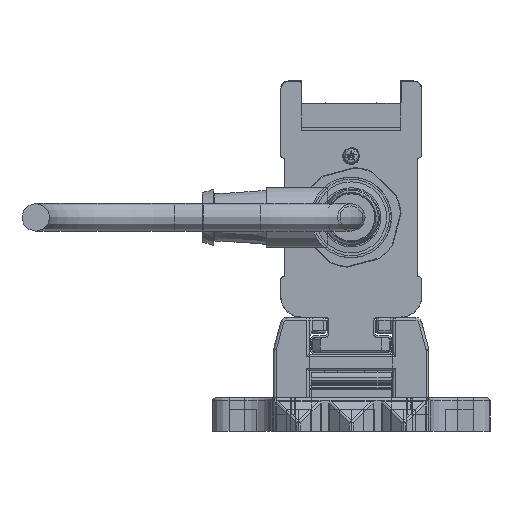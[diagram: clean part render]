
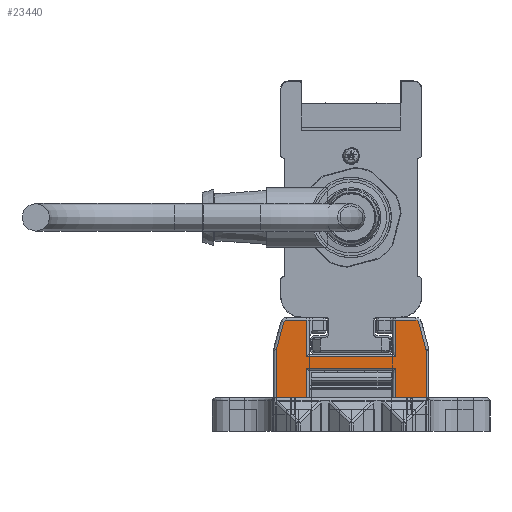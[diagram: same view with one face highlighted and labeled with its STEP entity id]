
A CAD part, left-side view. The second image highlights one B-rep face of the part: STEP entity #23440.
In plain terms, the highlighted planar face has unit normal (-1, 0, 0).
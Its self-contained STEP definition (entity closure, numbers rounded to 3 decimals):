
#23440=ADVANCED_FACE('', (#23450), #23460, .T.);
#165170=AXIS2_PLACEMENT_3D('Ax2Pl3d', #165180, #165190, #165200);
#165410=AXIS2_PLACEMENT_3D('Ax2Pl3d', #165420, #165430, #165440);
#170290=AXIS2_PLACEMENT_3D('Ax2Pl3d', #170300, #170310, #170320);
#175370=AXIS2_PLACEMENT_3D('Ax2Pl3d', #175380, #175390, #175400);
#185050=AXIS2_PLACEMENT_3D('Ax2Pl3d', #185060, #185070, #185080);
#714080=CARTESIAN_POINT('', (-747.669,-4486.345,
331.37));
#165180=CARTESIAN_POINT('HicPkt', (-747.669,-4485.379,
331.111));
#714090=CARTESIAN_POINT('', (-747.669,-4486.379,331.111)
);
#714100=CARTESIAN_POINT('', (-747.669,-4485.037,
336.255));
#714120=CARTESIAN_POINT('', (-747.669,-4485.037,
336.255));
#714150=CARTESIAN_POINT('', (-747.669,-4484.554,
336.625));
#165420=CARTESIAN_POINT('HicPkt', (-747.669,-4484.554,
336.125));
#714370=CARTESIAN_POINT('', (-747.669,-4486.379,322.625)
);
#714380=CARTESIAN_POINT('', (-747.669,-4480.881,322.625)
);
#714390=CARTESIAN_POINT('', (-747.669,-4480.881,322.625)
);
#714470=CARTESIAN_POINT('', (-747.669,-4464.881,322.625)
);
#714480=CARTESIAN_POINT('', (-747.669,-4459.383,322.625)
);
#714490=CARTESIAN_POINT('', (-747.669,-4459.383,322.625)
);
#170300=CARTESIAN_POINT('HicPkt', (-747.669,-4461.209,
336.125));
#716960=CARTESIAN_POINT('', (-747.669,-4460.726,
336.255));
#716970=CARTESIAN_POINT('', (-747.669,-4461.209,
336.625));
#716980=CARTESIAN_POINT('', (-747.669,-4480.881,
330.025));
#716990=CARTESIAN_POINT('', (-747.669,-4464.881,
330.025));
#717000=CARTESIAN_POINT('', (-747.669,-4480.881,
330.025));
#717160=CARTESIAN_POINT('', (-747.669,-4480.881,
328.005));
#717170=CARTESIAN_POINT('', (-747.669,-4464.881,
328.005));
#717180=CARTESIAN_POINT('', (-747.669,-4464.881,
328.005));
#717190=CARTESIAN_POINT('', (-747.669,-4480.881,
328.005));
#717210=CARTESIAN_POINT('', (-747.669,-4464.881,322.625)
);
#717220=CARTESIAN_POINT('', (-747.669,-4464.881,
330.025));
#717230=CARTESIAN_POINT('', (-747.669,-4464.881,
336.625));
#718080=CARTESIAN_POINT('', (-747.669,-4464.881,
336.625));
#718090=CARTESIAN_POINT('', (-747.669,-4460.726,
336.255));
#718100=CARTESIAN_POINT('', (-747.669,-4459.417,
331.37));
#718290=CARTESIAN_POINT('', (-747.669,-4459.383,331.111)
);
#718300=CARTESIAN_POINT('', (-747.669,-4459.383,331.111)
);
#175380=CARTESIAN_POINT('HicPkt', (-747.669,-4460.383,
331.111));
#719110=CARTESIAN_POINT('', (-747.669,-4486.379,331.111)
);
#185060=CARTESIAN_POINT('HicPkt', (-747.669,-4484.554,
336.625));
#720910=CARTESIAN_POINT('', (-747.669,-4480.881,
336.625));
#720920=CARTESIAN_POINT('', (-747.669,-4480.881,
336.625));
#720930=CARTESIAN_POINT('', (-747.669,-4480.881,
336.625));
#828200=CIRCLE('Circle', #165170, 1.);
#828240=CIRCLE('Circle', #165410, 0.5);
#828820=CIRCLE('Circle', #170290, 0.5);
#829350=CIRCLE('Circle', #175370, 1.);
#165190=DIRECTION('Axis', (-1.,0.,
0.));
#165200=DIRECTION('RefDirection', (0.,
0.,-1.));
#1155220=DIRECTION('', (0.,0.259,
0.966));
#165430=DIRECTION('Axis', (-1.,0.,
0.));
#165440=DIRECTION('RefDirection', (0.,
0.,-1.));
#1155330=DIRECTION('', (0.,1.,0.));
#1155370=DIRECTION('', (0.,1.,0.));
#170310=DIRECTION('Axis', (1.,0.,
0.));
#170320=DIRECTION('RefDirection', (0.,
0.,-1.));
#1156560=DIRECTION('', (0.,-1.,0.));
#1156660=DIRECTION('', (0.,1.,0.));
#1156670=DIRECTION('', (0.,0.,1.));
#1156690=DIRECTION('', (0.,0.,-1.));
#1156700=DIRECTION('', (0.,0.,-1.));
#1157130=DIRECTION('', (0.,-1.,0.))
;
#1157140=DIRECTION('', (0.,-0.259,0.966));
#1157230=DIRECTION('', (0.,0.,1.));
#175390=DIRECTION('Axis', (1.,0.,
0.));
#175400=DIRECTION('RefDirection', (0.,
0.,-1.));
#1157600=DIRECTION('', (0.,0.,1.));
#185070=DIRECTION('Axis', (-1.,0.,
0.));
#185080=DIRECTION('RefDirection', (0.,
0.,-1.));
#1158440=DIRECTION('', (0.,1.,0.));
#1158450=DIRECTION('', (0.,0.,1.));
#1233130=EDGE_CURVE('', #1233140, #1233120, #828200, .T.);
#1233190=EDGE_CURVE('', #1233120, #1233170, #1233200, .T.);
#1233260=EDGE_CURVE('', #1233170, #1233250, #828240, .T.);
#1233710=EDGE_CURVE('', #1233700, #1233720, #1233730, .T.);
#1233870=EDGE_CURVE('', #1233860, #1233880, #1233890, .T.);
#1238230=EDGE_CURVE('', #1238240, #1238250, #828820, .T.);
#1238280=EDGE_CURVE('', #1238290, #1238300, #1238310, .T.);
#1238650=EDGE_CURVE('', #1238630, #1238660, #1238670, .T.);
#1238700=EDGE_CURVE('', #1233720, #1238630, #1238710, .T.);
#1238740=EDGE_CURVE('', #1238660, #1233860, #1238750, .T.);
#1238760=EDGE_CURVE('', #1238770, #1238290, #1238780, .T.);
#1240600=EDGE_CURVE('', #1238250, #1238770, #1240610, .T.);
#1240670=EDGE_CURVE('', #1240680, #1238240, #1240690, .T.);
#1241110=EDGE_CURVE('', #1233880, #1241120, #1241130, .T.);
#1241150=EDGE_CURVE('', #1241120, #1240680, #829350, .T.);
#1242860=EDGE_CURVE('', #1233700, #1233140, #1242870, .T.);
#1246670=EDGE_CURVE('', #1233250, #1246680, #1246690, .T.);
#1246700=EDGE_CURVE('', #1238300, #1246680, #1246710, .T.);
#1483650=EDGE_LOOP('Edge_loop', (#1483660,#1483670,#1483680,#1483690,
#1483700,#1483710,#1483720,#1483730,#1483740,#1483750,#1483760,
#1483770,#1483780,#1483790,#1483800,#1483810,#1483820,#1483830));
#23450=FACE_OUTER_BOUND('Face_outer_bound', #1483650, .T.);
#1233200=LINE('Line', #714120, #1704690);
#1233730=LINE('Line', #714380, #1704800);
#1233890=LINE('Line', #714480, #1704840);
#1238310=LINE('Line', #716980, #1706030);
#1238670=LINE('Line', #717170, #1706130);
#1238710=LINE('Line', #717190, #1706140);
#1238750=LINE('Line', #717210, #1706160);
#1238780=LINE('Line', #717220, #1706170);
#1240610=LINE('Line', #718080, #1706600);
#1240690=LINE('Line', #718090, #1706610);
#1241130=LINE('Line', #718290, #1706700);
#1242870=LINE('Line', #719110, #1707070);
#1246690=LINE('Line', #720910, #1707910);
#1246710=LINE('Line', #720930, #1707920);
#1483660=ORIENTED_EDGE('', *, *, #1246670, .T.);
#1483670=ORIENTED_EDGE('', *, *, #1246700, .F.);
#1483680=ORIENTED_EDGE('', *, *, #1238280, .F.);
#1483690=ORIENTED_EDGE('', *, *, #1238760, .F.);
#1483700=ORIENTED_EDGE('', *, *, #1240600, .F.);
#1483710=ORIENTED_EDGE('', *, *, #1238230, .F.);
#1483720=ORIENTED_EDGE('', *, *, #1240670, .F.);
#1483730=ORIENTED_EDGE('', *, *, #1241150, .F.);
#1483740=ORIENTED_EDGE('', *, *, #1241110, .F.);
#1483750=ORIENTED_EDGE('', *, *, #1233870, .F.);
#1483760=ORIENTED_EDGE('', *, *, #1238740, .F.);
#1483770=ORIENTED_EDGE('', *, *, #1238650, .F.);
#1483780=ORIENTED_EDGE('', *, *, #1238700, .F.);
#1483790=ORIENTED_EDGE('', *, *, #1233710, .F.);
#1483800=ORIENTED_EDGE('', *, *, #1242860, .T.);
#1483810=ORIENTED_EDGE('', *, *, #1233130, .T.);
#1483820=ORIENTED_EDGE('', *, *, #1233190, .T.);
#1483830=ORIENTED_EDGE('', *, *, #1233260, .T.);
#23460=PLANE('Plane', #185050);
#1704690=VECTOR('', #1155220, 5.057);
#1704800=VECTOR('', #1155330, 5.498);
#1704840=VECTOR('', #1155370, 5.498);
#1706030=VECTOR('', #1156560, 16.);
#1706130=VECTOR('', #1156660, 16.);
#1706140=VECTOR('', #1156670, 5.38);
#1706160=VECTOR('', #1156690, 5.38);
#1706170=VECTOR('', #1156700, 6.6);
#1706600=VECTOR('', #1157130, 3.672);
#1706610=VECTOR('', #1157140, 5.057);
#1706700=VECTOR('', #1157230, 8.486);
#1707070=VECTOR('', #1157600, 8.486);
#1707910=VECTOR('', #1158440, 3.672);
#1707920=VECTOR('', #1158450, 6.6);
#1233120=VERTEX_POINT('', #714080);
#1233140=VERTEX_POINT('', #714090);
#1233170=VERTEX_POINT('', #714100);
#1233250=VERTEX_POINT('', #714150);
#1233700=VERTEX_POINT('', #714370);
#1233720=VERTEX_POINT('', #714390);
#1233860=VERTEX_POINT('', #714470);
#1233880=VERTEX_POINT('', #714490);
#1238240=VERTEX_POINT('', #716960);
#1238250=VERTEX_POINT('', #716970);
#1238290=VERTEX_POINT('', #716990);
#1238300=VERTEX_POINT('', #717000);
#1238630=VERTEX_POINT('', #717160);
#1238660=VERTEX_POINT('', #717180);
#1238770=VERTEX_POINT('', #717230);
#1240680=VERTEX_POINT('', #718100);
#1241120=VERTEX_POINT('', #718300);
#1246680=VERTEX_POINT('', #720920);
